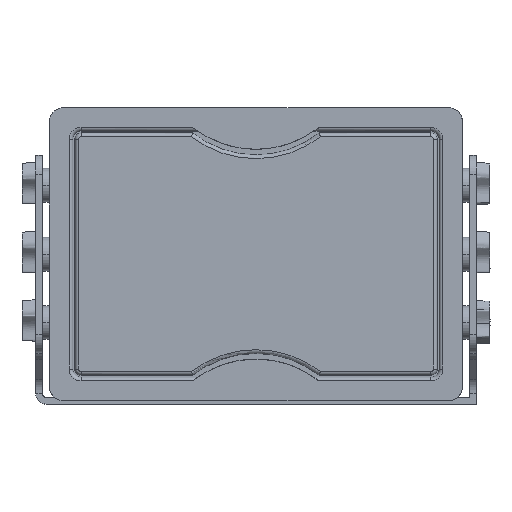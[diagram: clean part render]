
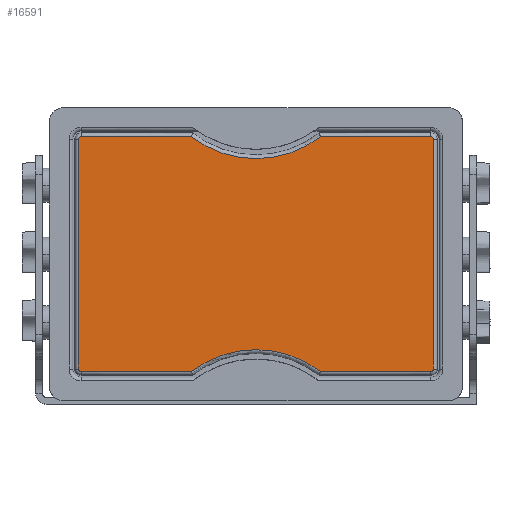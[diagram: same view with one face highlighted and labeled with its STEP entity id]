
A CAD part, top view. The second image highlights one B-rep face of the part: STEP entity #16591.
In plain terms, the highlighted planar face has unit normal (0, 0, 1).
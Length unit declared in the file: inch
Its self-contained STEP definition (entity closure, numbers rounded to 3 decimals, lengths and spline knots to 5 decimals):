
#91 = CARTESIAN_POINT ( 'NONE',  ( 4.738, -3.06625, 0. ) ) ;
#148 = VERTEX_POINT ( 'NONE', #9528 ) ;
#585 = CIRCLE ( 'NONE', #1153, 0.06875 ) ;
#605 = CARTESIAN_POINT ( 'NONE',  ( 1.71941, -3.135, 0. ) ) ;
#627 = CARTESIAN_POINT ( 'NONE',  ( 4.66925, -3.135, 0. ) ) ;
#734 = EDGE_CURVE ( 'NONE', #16039, #17661, #3493, .T. ) ;
#801 = LINE ( 'NONE', #15149, #15504 ) ;
#1031 = EDGE_LOOP ( 'NONE', ( #8215, #9417, #1277, #19017, #9252, #3220, #8265, #16595, #17693, #3142, #16393, #18760 ) ) ;
#1153 = AXIS2_PLACEMENT_3D ( 'NONE', #12826, #4041, #14309 ) ;
#1185 = AXIS2_PLACEMENT_3D ( 'NONE', #1226, #12983, #4199 ) ;
#1226 = CARTESIAN_POINT ( 'NONE',  ( 4.66925, -3.06625, 0. ) ) ;
#1277 = ORIENTED_EDGE ( 'NONE', *, *, #5930, .T. ) ;
#1324 = CIRCLE ( 'NONE', #11426, 0.06875 ) ;
#1557 = LINE ( 'NONE', #3799, #13289 ) ;
#2175 = AXIS2_PLACEMENT_3D ( 'NONE', #2780, #13037, #4261 ) ;
#2510 = CIRCLE ( 'NONE', #17424, 0.06875 ) ;
#2776 = CIRCLE ( 'NONE', #2175, 2.8193 ) ;
#2780 = CARTESIAN_POINT ( 'NONE',  ( 0., 5.3693, 0. ) ) ;
#2790 = CARTESIAN_POINT ( 'NONE',  ( -1.71941, -3.135, 0. ) ) ;
#3142 = ORIENTED_EDGE ( 'NONE', *, *, #14530, .T. ) ;
#3220 = ORIENTED_EDGE ( 'NONE', *, *, #18696, .T. ) ;
#3493 = LINE ( 'NONE', #13432, #14291 ) ;
#3799 = CARTESIAN_POINT ( 'NONE',  ( 4.66925, -3.135, 0. ) ) ;
#4041 = DIRECTION ( 'NONE',  ( 0., 0., 1. ) ) ;
#4199 = DIRECTION ( 'NONE',  ( -1., 0., 0. ) ) ;
#4261 = DIRECTION ( 'NONE',  ( -1., 0., 0. ) ) ;
#4586 = VECTOR ( 'NONE', #8000, 39.37008 ) ;
#5044 = VECTOR ( 'NONE', #9495, 39.37008 ) ;
#5645 = CARTESIAN_POINT ( 'NONE',  ( -4.66925, -3.135, 0. ) ) ;
#5681 = CARTESIAN_POINT ( 'NONE',  ( 1.71941, 3.135, 0. ) ) ;
#5930 = EDGE_CURVE ( 'NONE', #10119, #16039, #1324, .T. ) ;
#6041 = DIRECTION ( 'NONE',  ( 0., 0., 1. ) ) ;
#6045 = EDGE_CURVE ( 'NONE', #15015, #10119, #16282, .T. ) ;
#6111 = DIRECTION ( 'NONE',  ( 0., 1., 0. ) ) ;
#6746 = DIRECTION ( 'NONE',  ( 0., 0., -1. ) ) ;
#6792 = DIRECTION ( 'NONE',  ( 0., 0., 1. ) ) ;
#7107 = DIRECTION ( 'NONE',  ( 1., 0., 0. ) ) ;
#7216 = VERTEX_POINT ( 'NONE', #15505 ) ;
#7670 = CARTESIAN_POINT ( 'NONE',  ( 4.66925, 3.06625, 0. ) ) ;
#8000 = DIRECTION ( 'NONE',  ( -1., 0., 0. ) ) ;
#8023 = VECTOR ( 'NONE', #7107, 39.37008 ) ;
#8215 = ORIENTED_EDGE ( 'NONE', *, *, #14702, .T. ) ;
#8265 = ORIENTED_EDGE ( 'NONE', *, *, #16605, .T. ) ;
#8939 = LINE ( 'NONE', #12453, #4586 ) ;
#8970 = VERTEX_POINT ( 'NONE', #5645 ) ;
#9143 = DIRECTION ( 'NONE',  ( -1., 0., 0. ) ) ;
#9252 = ORIENTED_EDGE ( 'NONE', *, *, #17700, .T. ) ;
#9305 = DIRECTION ( 'NONE',  ( 0., -1., 0. ) ) ;
#9389 = EDGE_CURVE ( 'NONE', #8970, #15430, #1557, .T. ) ;
#9417 = ORIENTED_EDGE ( 'NONE', *, *, #6045, .T. ) ;
#9495 = DIRECTION ( 'NONE',  ( -1., 0., 0. ) ) ;
#9528 = CARTESIAN_POINT ( 'NONE',  ( -4.66925, 3.135, 0. ) ) ;
#9541 = CARTESIAN_POINT ( 'NONE',  ( 4.66925, 3.135, 0. ) ) ;
#10119 = VERTEX_POINT ( 'NONE', #627 ) ;
#10214 = CIRCLE ( 'NONE', #18019, 2.8193 ) ;
#10563 = CARTESIAN_POINT ( 'NONE',  ( 4.738, 3.06625, 0. ) ) ;
#11426 = AXIS2_PLACEMENT_3D ( 'NONE', #15578, #6792, #17037 ) ;
#12175 = VERTEX_POINT ( 'NONE', #13884 ) ;
#12195 = CIRCLE ( 'NONE', #14246, 0.06875 ) ;
#12453 = CARTESIAN_POINT ( 'NONE',  ( 4.66925, 3.135, 0. ) ) ;
#12468 = EDGE_CURVE ( 'NONE', #12175, #8970, #585, .T. ) ;
#12826 = CARTESIAN_POINT ( 'NONE',  ( -4.66925, -3.06625, 0. ) ) ;
#12983 = DIRECTION ( 'NONE',  ( 0., 0., -1. ) ) ;
#13037 = DIRECTION ( 'NONE',  ( 0., 0., -1. ) ) ;
#13264 = VERTEX_POINT ( 'NONE', #5681 ) ;
#13289 = VECTOR ( 'NONE', #14082, 39.37008 ) ;
#13432 = CARTESIAN_POINT ( 'NONE',  ( 4.738, -3.06625, 0. ) ) ;
#13884 = CARTESIAN_POINT ( 'NONE',  ( -4.738, -3.06625, 0. ) ) ;
#14082 = DIRECTION ( 'NONE',  ( 1., 0., 0. ) ) ;
#14246 = AXIS2_PLACEMENT_3D ( 'NONE', #7670, #17924, #9143 ) ;
#14291 = VECTOR ( 'NONE', #6111, 39.37008 ) ;
#14309 = DIRECTION ( 'NONE',  ( -1., 0., 0. ) ) ;
#14386 = PLANE ( 'NONE',  #1185 ) ;
#14530 = EDGE_CURVE ( 'NONE', #14970, #12175, #801, .T. ) ;
#14702 = EDGE_CURVE ( 'NONE', #15430, #15015, #10214, .T. ) ;
#14828 = CARTESIAN_POINT ( 'NONE',  ( -4.66925, 3.06625, 0. ) ) ;
#14970 = VERTEX_POINT ( 'NONE', #16637 ) ;
#15015 = VERTEX_POINT ( 'NONE', #605 ) ;
#15149 = CARTESIAN_POINT ( 'NONE',  ( -4.738, -3.06625, 0. ) ) ;
#15430 = VERTEX_POINT ( 'NONE', #2790 ) ;
#15504 = VECTOR ( 'NONE', #9305, 39.37008 ) ;
#15505 = CARTESIAN_POINT ( 'NONE',  ( -1.71941, 3.135, 0. ) ) ;
#15526 = CARTESIAN_POINT ( 'NONE',  ( 0., -5.3693, 0. ) ) ;
#15578 = CARTESIAN_POINT ( 'NONE',  ( 4.66925, -3.06625, 0. ) ) ;
#16039 = VERTEX_POINT ( 'NONE', #91 ) ;
#16281 = DIRECTION ( 'NONE',  ( -1., 0., 0. ) ) ;
#16282 = LINE ( 'NONE', #18839, #8023 ) ;
#16393 = ORIENTED_EDGE ( 'NONE', *, *, #12468, .T. ) ;
#16591 = ADVANCED_FACE ( 'NONE', ( #17451 ), #14386, .F. ) ;
#16595 = ORIENTED_EDGE ( 'NONE', *, *, #18688, .T. ) ;
#16605 = EDGE_CURVE ( 'NONE', #13264, #7216, #2776, .T. ) ;
#16637 = CARTESIAN_POINT ( 'NONE',  ( -4.738, 3.06625, 0. ) ) ;
#16728 = LINE ( 'NONE', #18268, #5044 ) ;
#16984 = DIRECTION ( 'NONE',  ( -1., 0., 0. ) ) ;
#17037 = DIRECTION ( 'NONE',  ( -1., 0., 0. ) ) ;
#17424 = AXIS2_PLACEMENT_3D ( 'NONE', #14828, #6041, #16281 ) ;
#17451 = FACE_OUTER_BOUND ( 'NONE', #1031, .T. ) ;
#17494 = VERTEX_POINT ( 'NONE', #9541 ) ;
#17661 = VERTEX_POINT ( 'NONE', #10563 ) ;
#17693 = ORIENTED_EDGE ( 'NONE', *, *, #18567, .T. ) ;
#17700 = EDGE_CURVE ( 'NONE', #17661, #17494, #12195, .T. ) ;
#17924 = DIRECTION ( 'NONE',  ( 0., 0., 1. ) ) ;
#18019 = AXIS2_PLACEMENT_3D ( 'NONE', #15526, #6746, #16984 ) ;
#18268 = CARTESIAN_POINT ( 'NONE',  ( 4.66925, 3.135, 0. ) ) ;
#18567 = EDGE_CURVE ( 'NONE', #148, #14970, #2510, .T. ) ;
#18688 = EDGE_CURVE ( 'NONE', #7216, #148, #16728, .T. ) ;
#18696 = EDGE_CURVE ( 'NONE', #17494, #13264, #8939, .T. ) ;
#18760 = ORIENTED_EDGE ( 'NONE', *, *, #9389, .T. ) ;
#18839 = CARTESIAN_POINT ( 'NONE',  ( 4.66925, -3.135, 0. ) ) ;
#19017 = ORIENTED_EDGE ( 'NONE', *, *, #734, .T. ) ;
